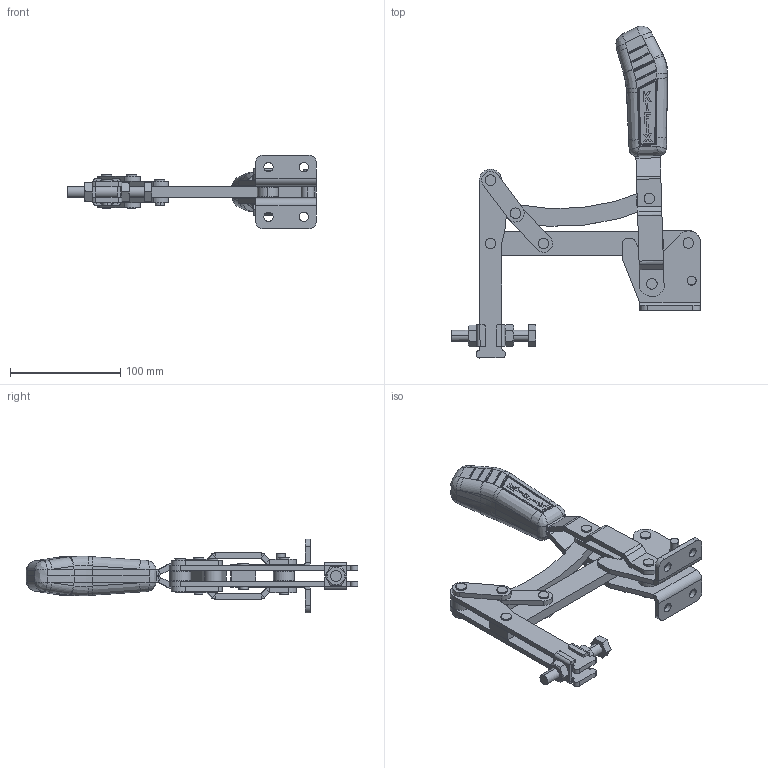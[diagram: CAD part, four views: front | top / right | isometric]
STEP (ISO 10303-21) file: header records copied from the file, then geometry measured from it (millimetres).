
FILE_DESCRIPTION (( 'STEP AP203' ), '1' );
FILE_NAME ('KF-111 DS A.STEP', '2014-09-05T12:36:29', ( 'Ricardo' ), ( '' ), 'SwSTEP 2.0', 'SolidWorks 2013', '' );
FILE_SCHEMA (( 'CONFIG_CONTROL_DESIGN' ));
Length unit declared in the file: millimetre
Products named in the file (18): 3670000105; 01.10014; 07.60003; 12.50021; 04.10003A_Direita; 03.15034; 11.50003; 04.20003; 08.10093; 14.10003; 15.10131; KF-111 DS A; 20.10005; 05.20006; 3670000074; 02.12010_Direita; 3670000075; 02.12010_Esquerda
Assembly tree (31 placements, depth 2):
  KF-111 DS A
    02.12010_Direita
    02.12010_Esquerda
    01.10014  x2
    04.10003A_Direita  x2
    04.20003
    07.60003
    03.15034
    08.10093  x4
    15.10131
    20.10005  x2
    05.20006  x2
    3670000074  x4
    3670000075  x2
    3670000105  x2
    12.50021
    11.50003  x2
    14.10003  x2
Bounding box: 225.42 x 300.63 x 67 mm (x, y, z)
Volume: 338515.4 mm3; surface area: 140509.7 mm2
Topology: 31 solids, 31 shells, 897 faces, 2155 edges, 1339 vertices
Faces by surface type: plane 364, cylinder 309, bspline 145, sphere 48, cone 28, torus 3
Entity records: 26255 total; most frequent: CARTESIAN_POINT 8938, ORIENTED_EDGE 3364, DIRECTION 2771, EDGE_CURVE 1682, AXIS2_PLACEMENT_3D 1080, VERTEX_POINT 1053, EDGE_LOOP 771, ADVANCED_FACE 689
